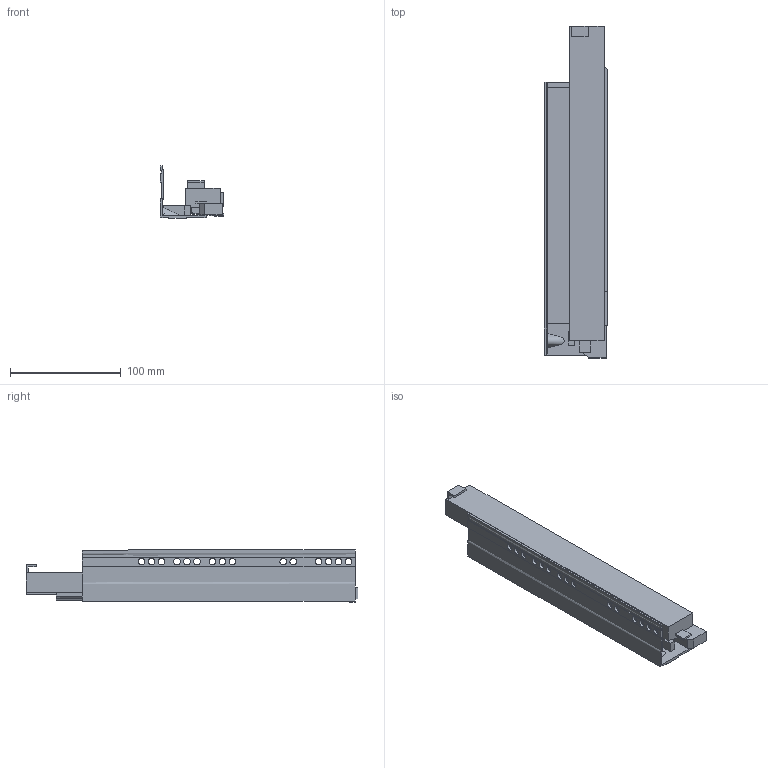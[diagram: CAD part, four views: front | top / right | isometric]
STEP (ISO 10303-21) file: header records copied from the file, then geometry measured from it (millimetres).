
FILE_DESCRIPTION (( 'STEP AP214' ), '1' );
FILE_NAME ('_IMOS_Dynapro_Softclose_D514_NL_300_LI.step', '2010-07-16T06:00:52', ( 'grass' ), ( '' ), 'SwSTEP 2.0', 'SolidWorks 2009', '' );
FILE_SCHEMA (( 'AUTOMOTIVE_DESIGN' ));
Length unit declared in the file: millimetre
Products named in the file (1): _IMOS_Dynapro_Softclose_D514_NL_300_LI
Bounding box: 57.08 x 300.07 x 47.86 mm (x, y, z)
Volume: 279219.3 mm3; surface area: 95266.9 mm2
Topology: 1 solids, 1 shells, 112 faces, 379 edges, 267 vertices
Faces by surface type: plane 76, cylinder 30, bspline 6
Entity records: 5037 total; most frequent: CARTESIAN_POINT 1584, ORIENTED_EDGE 754, DIRECTION 655, EDGE_CURVE 377, LINE 295, VECTOR 295, VERTEX_POINT 267, AXIS2_PLACEMENT_3D 180
